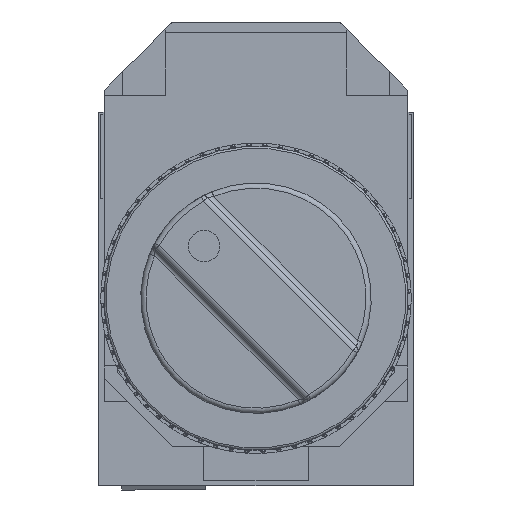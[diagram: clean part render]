
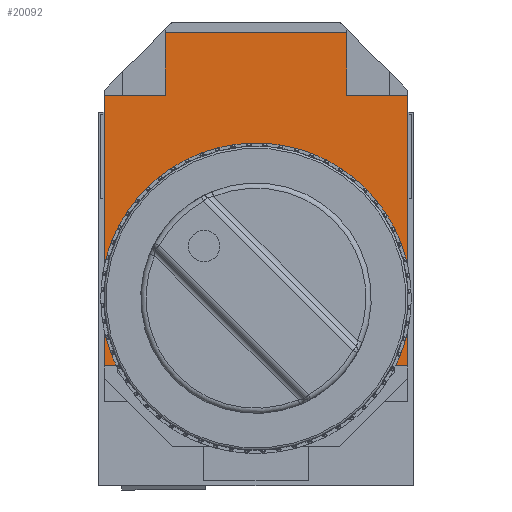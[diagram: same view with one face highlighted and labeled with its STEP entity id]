
A CAD part, top view. The second image highlights one B-rep face of the part: STEP entity #20092.
In plain terms, the highlighted planar face has unit normal (0, 0, 1).
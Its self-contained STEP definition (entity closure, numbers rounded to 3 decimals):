
#18765=CARTESIAN_POINT('',(-10.269,-6.4,-16.5));
#18766=VERTEX_POINT('',#18765);
#18773=CARTESIAN_POINT('',(-14.5,-6.4,-16.5));
#18774=VERTEX_POINT('',#18773);
#18775=CARTESIAN_POINT('',(-14.5,-6.4,-16.5));
#18776=DIRECTION('',(1.0,0.0,0.0));
#18777=VECTOR('',#18776,4.231);
#18778=LINE('',#18775,#18777);
#18779=EDGE_CURVE('',#18774,#18766,#18778,.T.);
#18804=CARTESIAN_POINT('',(10.269,-6.4,-16.5));
#18805=VERTEX_POINT('',#18804);
#18812=CARTESIAN_POINT('',(0.,0.,-16.5));
#18813=DIRECTION('',(0.,0.,1.0));
#18814=DIRECTION('',(-0.849,-0.529,0.));
#18815=AXIS2_PLACEMENT_3D('',#18812,#18813,#18814);
#18816=CIRCLE('',#18815,12.1);
#18817=EDGE_CURVE('',#18766,#18805,#18816,.T.);
#18830=CARTESIAN_POINT('',(-8.65,19.4,-16.5));
#18831=VERTEX_POINT('',#18830);
#18838=CARTESIAN_POINT('',(-8.65,25.4,-16.5));
#18839=VERTEX_POINT('',#18838);
#18840=CARTESIAN_POINT('',(-8.65,19.4,-16.5));
#18841=DIRECTION('',(0.0,1.0,0.0));
#18842=VECTOR('',#18841,6.0);
#18843=LINE('',#18840,#18842);
#18844=EDGE_CURVE('',#18831,#18839,#18843,.T.);
#19111=CARTESIAN_POINT('',(8.65,25.4,-16.5));
#19112=VERTEX_POINT('',#19111);
#19113=CARTESIAN_POINT('',(-8.65,25.4,-16.5));
#19114=DIRECTION('',(1.0,0.0,0.0));
#19115=VECTOR('',#19114,17.3);
#19116=LINE('',#19113,#19115);
#19117=EDGE_CURVE('',#18839,#19112,#19116,.T.);
#19135=CARTESIAN_POINT('',(8.65,19.4,-16.5));
#19136=VERTEX_POINT('',#19135);
#19152=CARTESIAN_POINT('',(8.65,25.4,-16.5));
#19153=DIRECTION('',(0.0,-1.0,0.0));
#19154=VECTOR('',#19153,6.);
#19155=LINE('',#19152,#19154);
#19156=EDGE_CURVE('',#19112,#19136,#19155,.T.);
#19264=CARTESIAN_POINT('',(-14.5,19.4,-16.5));
#19265=VERTEX_POINT('',#19264);
#19272=CARTESIAN_POINT('',(-8.65,19.4,-16.5));
#19273=DIRECTION('',(-1.0,0.0,0.0));
#19274=VECTOR('',#19273,5.85);
#19275=LINE('',#19272,#19274);
#19276=EDGE_CURVE('',#18831,#19265,#19275,.T.);
#19640=CARTESIAN_POINT('',(10.6,0.,-16.5));
#19641=VERTEX_POINT('',#19640);
#19642=CARTESIAN_POINT('',(0.,0.,-16.5));
#19643=DIRECTION('',(0.0,0.0,1.0));
#19644=DIRECTION('',(-1.0,0.0,0.0));
#19645=AXIS2_PLACEMENT_3D('',#19642,#19643,#19644);
#19646=CIRCLE('',#19645,10.6);
#19647=EDGE_CURVE('',#19641,#19641,#19646,.T.);
#19679=CARTESIAN_POINT('',(14.5,-6.4,-16.5));
#19680=VERTEX_POINT('',#19679);
#19687=CARTESIAN_POINT('',(10.269,-6.4,-16.5));
#19688=DIRECTION('',(1.0,0.0,0.0));
#19689=VECTOR('',#19688,4.231);
#19690=LINE('',#19687,#19689);
#19691=EDGE_CURVE('',#18805,#19680,#19690,.T.);
#19844=CARTESIAN_POINT('',(14.5,19.4,-16.5));
#19845=VERTEX_POINT('',#19844);
#19846=CARTESIAN_POINT('',(14.5,19.4,-16.5));
#19847=DIRECTION('',(0.0,-1.0,0.0));
#19848=VECTOR('',#19847,25.8);
#19849=LINE('',#19846,#19848);
#19850=EDGE_CURVE('',#19845,#19680,#19849,.T.);
#19947=CARTESIAN_POINT('',(-14.5,-6.4,-16.5));
#19948=DIRECTION('',(0.0,1.0,0.0));
#19949=VECTOR('',#19948,25.8);
#19950=LINE('',#19947,#19949);
#19951=EDGE_CURVE('',#18774,#19265,#19950,.T.);
#20067=CARTESIAN_POINT('',(0.,6.15,-16.5));
#20068=DIRECTION('',(0.0,0.0,1.0));
#20069=DIRECTION('',(1.0,0.0,0.0));
#20070=AXIS2_PLACEMENT_3D('',#20067,#20068,#20069);
#20071=PLANE('',#20070);
#20072=ORIENTED_EDGE('',*,*,#19117,.F.);
#20073=ORIENTED_EDGE('',*,*,#18844,.F.);
#20074=ORIENTED_EDGE('',*,*,#19276,.T.);
#20075=ORIENTED_EDGE('',*,*,#19951,.F.);
#20076=ORIENTED_EDGE('',*,*,#18779,.T.);
#20077=ORIENTED_EDGE('',*,*,#18817,.T.);
#20078=ORIENTED_EDGE('',*,*,#19691,.T.);
#20079=ORIENTED_EDGE('',*,*,#19850,.F.);
#20080=CARTESIAN_POINT('',(14.5,19.4,-16.5));
#20081=DIRECTION('',(-1.0,0.0,0.0));
#20082=VECTOR('',#20081,5.85);
#20083=LINE('',#20080,#20082);
#20084=EDGE_CURVE('',#19845,#19136,#20083,.T.);
#20085=ORIENTED_EDGE('',*,*,#20084,.T.);
#20086=ORIENTED_EDGE('',*,*,#19156,.F.);
#20087=EDGE_LOOP('',(#20072,#20073,#20074,#20075,#20076,#20077,#20078,#20079,#20085,#20086));
#20088=FACE_OUTER_BOUND('',#20087,.T.);
#20089=ORIENTED_EDGE('',*,*,#19647,.F.);
#20090=EDGE_LOOP('',(#20089));
#20091=FACE_BOUND('',#20090,.T.);
#20092=ADVANCED_FACE('',(#20088,#20091),#20071,.T.);
